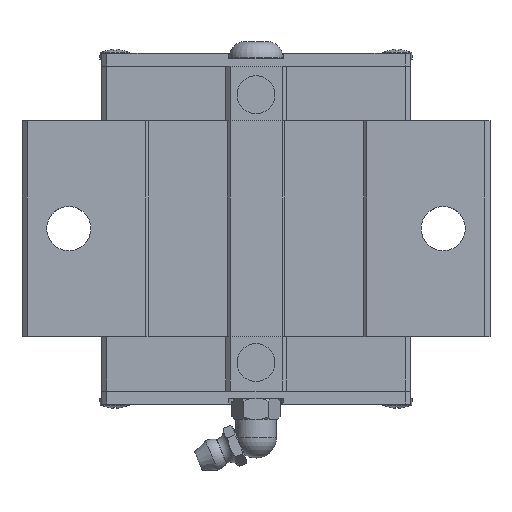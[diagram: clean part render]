
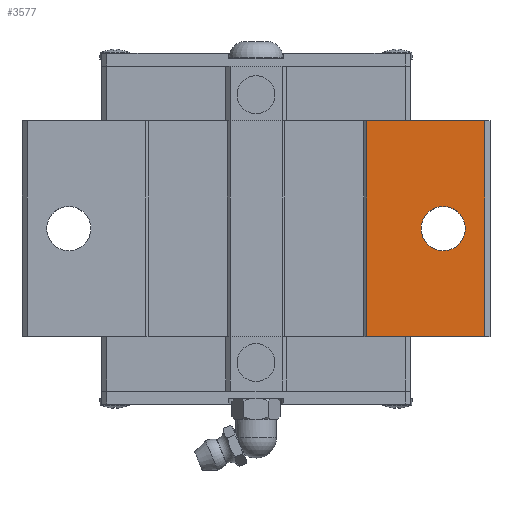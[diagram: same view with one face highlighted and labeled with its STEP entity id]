
A CAD part, top view. The second image highlights one B-rep face of the part: STEP entity #3577.
In plain terms, the highlighted planar face has unit normal (0, 0, 1).
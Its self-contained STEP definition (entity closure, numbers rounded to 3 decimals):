
#2173=EDGE_CURVE('',#3711,#4487,#6043,.T.);
#2609=VERTEX_POINT('',#6524);
#2781=EDGE_CURVE('',#5315,#2985,#6717,.T.);
#2859=EDGE_CURVE('',#5107,#2609,#6801,.T.);
#2889=EDGE_CURVE('',#2609,#3711,#6832,.T.);
#2931=EDGE_CURVE('',#5107,#4487,#6876,.T.);
#2985=VERTEX_POINT('',#6936);
#3577=ADVANCED_FACE('',(#7585,#7586),#7587,.T.);
#3711=VERTEX_POINT('',#7743);
#3975=EDGE_CURVE('',#2985,#5315,#8032,.T.);
#4487=VERTEX_POINT('',#8598);
#5107=VERTEX_POINT('',#9270);
#5315=VERTEX_POINT('',#9504);
#6043=LINE('',#10462,#10463);
#6524=CARTESIAN_POINT('',(21.25,54.55,42.0));
#6717=CIRCLE('',#11553,4.25);
#6801=LINE('',#11669,#11670);
#6832=LINE('',#11718,#11719);
#6876=LINE('',#11786,#11787);
#6936=CARTESIAN_POINT('',(40.25,33.8,42.0));
#7585=FACE_OUTER_BOUND('',#12926,.T.);
#7586=FACE_BOUND('',#12927,.T.);
#7587=PLANE('',#12928);
#7743=CARTESIAN_POINT('',(21.25,13.05,42.0));
#8032=CIRCLE('',#13645,4.25);
#8598=CARTESIAN_POINT('',(44.0,13.05,42.0));
#9270=CARTESIAN_POINT('',(44.0,54.55,42.0));
#9504=CARTESIAN_POINT('',(31.75,33.8,42.0));
#10462=CARTESIAN_POINT('',(44.0,13.05,42.0));
#10463=VECTOR('',#17229,1.0);
#11553=AXIS2_PLACEMENT_3D('',#18050,#18051,#18052);
#11669=CARTESIAN_POINT('',(44.0,54.55,42.0));
#11670=VECTOR('',#18149,1.0);
#11718=CARTESIAN_POINT('',(21.25,64.925,42.0));
#11719=VECTOR('',#18170,1.0);
#11786=CARTESIAN_POINT('',(44.0,54.55,42.0));
#11787=VECTOR('',#18203,1.0);
#12926=EDGE_LOOP('',(#18973,#18974,#18975,#18976));
#12927=EDGE_LOOP('',(#18977,#18978));
#12928=AXIS2_PLACEMENT_3D('',#18979,#18980,#18981);
#13645=AXIS2_PLACEMENT_3D('',#19465,#19466,#19467);
#17229=DIRECTION('',(1.0,0.0,0.0));
#18050=CARTESIAN_POINT('',(36.0,33.8,42.0));
#18051=DIRECTION('',(0.0,0.0,-1.0));
#18052=DIRECTION('',(1.0,0.0,0.0));
#18149=DIRECTION('',(-1.0,0.0,0.0));
#18170=DIRECTION('',(0.0,-1.0,0.0));
#18203=DIRECTION('',(0.0,-1.0,0.0));
#18973=ORIENTED_EDGE('',*,*,#2889,.T.);
#18974=ORIENTED_EDGE('',*,*,#2173,.T.);
#18975=ORIENTED_EDGE('',*,*,#2931,.F.);
#18976=ORIENTED_EDGE('',*,*,#2859,.T.);
#18977=ORIENTED_EDGE('',*,*,#3975,.T.);
#18978=ORIENTED_EDGE('',*,*,#2781,.T.);
#18979=CARTESIAN_POINT('',(-44.0,54.55,42.0));
#18980=DIRECTION('',(0.0,0.0,1.0));
#18981=DIRECTION('',(-1.0,0.0,0.0));
#19465=CARTESIAN_POINT('',(36.0,33.8,42.0));
#19466=DIRECTION('',(0.0,0.0,-1.0));
#19467=DIRECTION('',(1.0,0.0,0.0));
